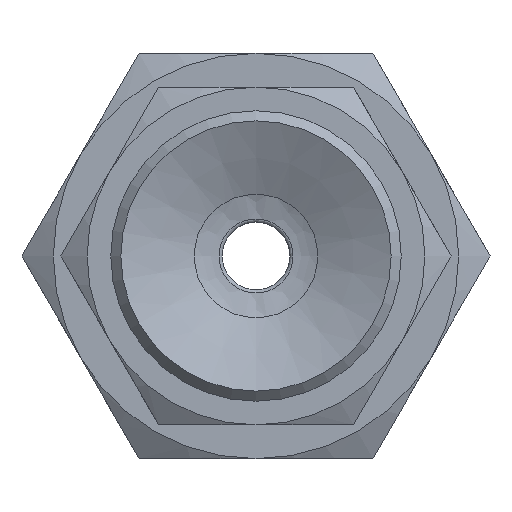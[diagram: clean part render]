
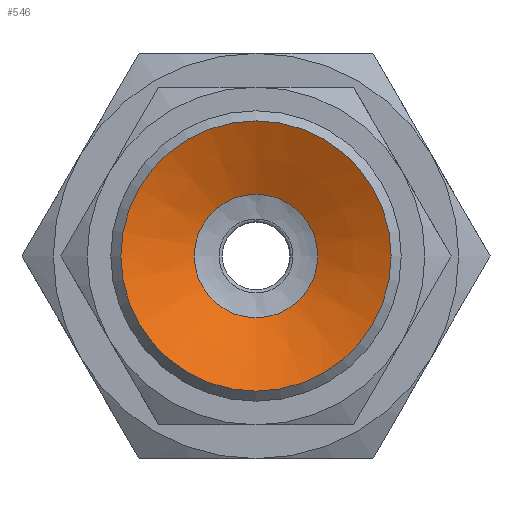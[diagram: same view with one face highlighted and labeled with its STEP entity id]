
A CAD part, front view. The second image highlights one B-rep face of the part: STEP entity #546.
In plain terms, the highlighted conical face has half-angle 65 degrees and reference radius 1.427 mm.
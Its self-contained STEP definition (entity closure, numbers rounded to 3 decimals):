
#546=ADVANCED_FACE('',(#796,#797),#798,.F.);
#796=FACE_BOUND('',#1093,.T.);
#797=FACE_OUTER_BOUND('',#1094,.T.);
#798=CONICAL_SURFACE('',#1095,1.427,1.134);
#1093=EDGE_LOOP('',(#1811));
#1094=EDGE_LOOP('',(#1812));
#1095=AXIS2_PLACEMENT_3D('',#1813,#1814,#1815);
#1811=ORIENTED_EDGE('',*,*,#2137,.T.);
#1812=ORIENTED_EDGE('',*,*,#2127,.T.);
#1813=CARTESIAN_POINT('',(0.0,7.096,0.));
#1814=DIRECTION('',(-0.0,-1.0,0.));
#1815=DIRECTION('',(0.0,0.,-1.0));
#2127=EDGE_CURVE('',#2443,#2443,#2444,.T.);
#2137=EDGE_CURVE('',#2463,#2463,#2464,.T.);
#2443=VERTEX_POINT('',#3143);
#2444=CIRCLE('',#3144,4.0);
#2463=VERTEX_POINT('',#3163);
#2464=CIRCLE('',#3164,1.828);
#3143=CARTESIAN_POINT('',(0.0,5.896,-4.0));
#3144=AXIS2_PLACEMENT_3D('',#3469,#3470,#3471);
#3163=CARTESIAN_POINT('',(0.0,6.909,-1.828));
#3164=AXIS2_PLACEMENT_3D('',#3499,#3500,#3501);
#3469=CARTESIAN_POINT('',(0.0,5.896,0.0));
#3470=DIRECTION('',(0.0,-1.0,0.));
#3471=DIRECTION('',(0.0,0.,-1.0));
#3499=CARTESIAN_POINT('',(0.0,6.909,0.0));
#3500=DIRECTION('',(0.0,1.0,0.));
#3501=DIRECTION('',(0.0,0.,-1.0));
